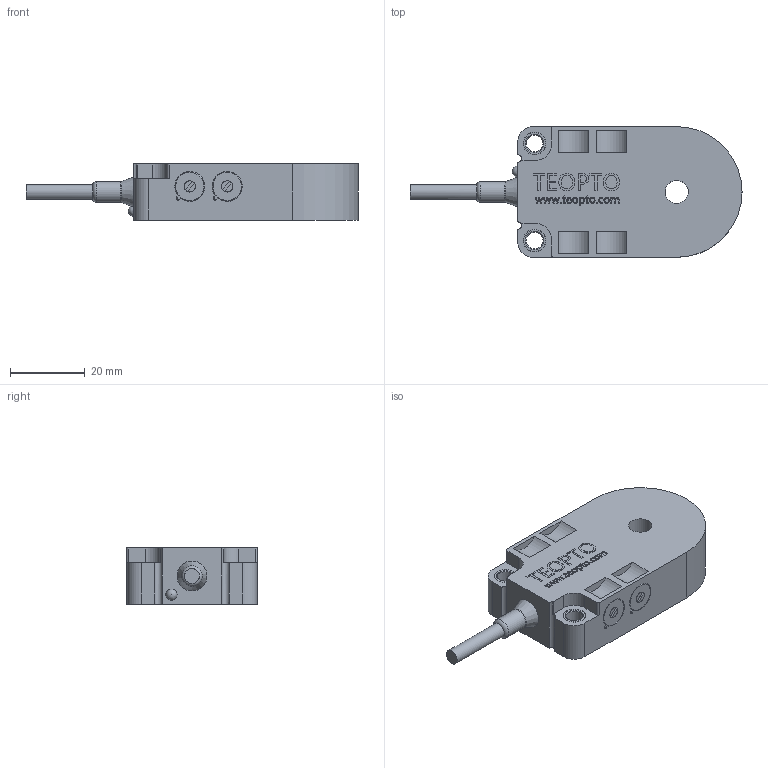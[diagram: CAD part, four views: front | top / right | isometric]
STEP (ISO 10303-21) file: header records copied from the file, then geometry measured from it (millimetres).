
FILE_DESCRIPTION(('STEP AP214'),'1');
FILE_NAME('L01AN6.stp','2017-02-20T12:14:29',(' '),(' '),'Spatial InterOp 3D',' ',' ');
FILE_SCHEMA(('automotive_design'));
Length unit declared in the file: millimetre
Products named in the file (3): 1; 2; 3
Bounding box: 88.84 x 35 x 15 mm (x, y, z)
Volume: 28161 mm3; surface area: 7771.9 mm2
Topology: 5 solids, 6 shells, 824 faces, 2303 edges, 1532 vertices
Faces by surface type: plane 770, cylinder 40, torus 8, cone 5, sphere 1
Full cylindrical faces by diameter (mm): 3 x4, 4 x1, 4.5 x2, 5.5 x2, 6 x2, 6.2 x1, 6.5 x1
Entity records: 32410 total; most frequent: CARTESIAN_POINT 4639, ORIENTED_EDGE 4542, DIRECTION 4008, EDGE_CURVE 2271, LINE 2176, VECTOR 2176, VERTEX_POINT 1523, AXIS2_PLACEMENT_3D 916
